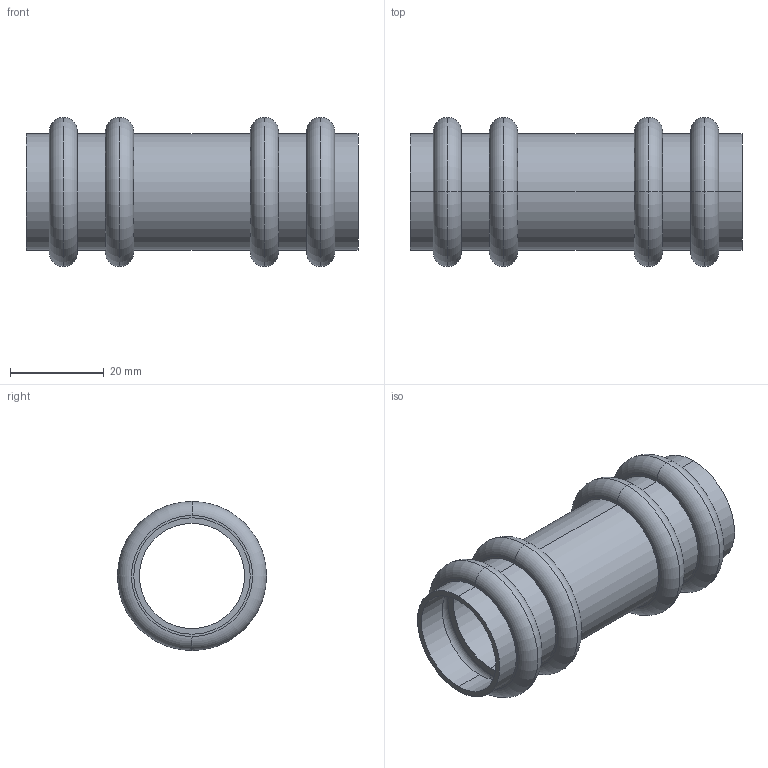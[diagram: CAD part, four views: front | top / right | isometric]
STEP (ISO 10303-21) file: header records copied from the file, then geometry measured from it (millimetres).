
FILE_DESCRIPTION(('starvars output'),'1');
FILE_NAME('cv20240422105210000011944.stp','10:52:11 2024/04/22',('Thomas Industrial Network Germany GmbH'),(' '),'Spatial InterOp 3D',' ',' ');
FILE_SCHEMA(('AUTOMOTIVE_DESIGN { 1 0 10303 214 3 1 1 }'));
Length unit declared in the file: millimetre
Products named in the file (1): 1
Bounding box: 71 x 31.9 x 31.9 mm (x, y, z)
Volume: 9036.9 mm3; surface area: 14669.1 mm2
Topology: 1 solids, 1 shells, 70 faces, 140 edges, 88 vertices
Faces by surface type: torus 32, cylinder 20, plane 18
Entity records: 2464 total; most frequent: DIRECTION 402, CARTESIAN_POINT 299, ORIENTED_EDGE 280, AXIS2_PLACEMENT_3D 191, EDGE_CURVE 140, CIRCLE 120, EDGE_LOOP 88, VERTEX_POINT 88
